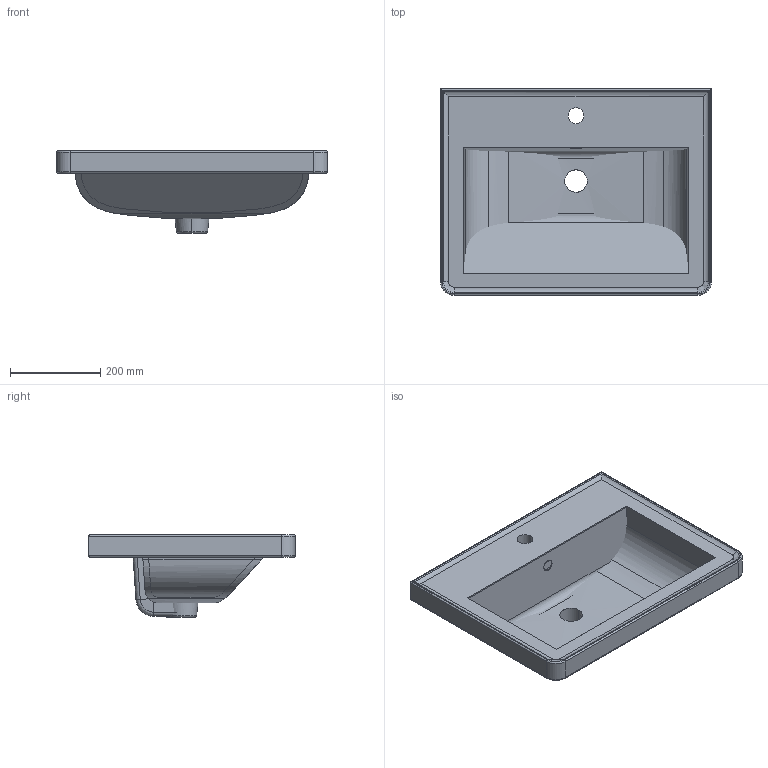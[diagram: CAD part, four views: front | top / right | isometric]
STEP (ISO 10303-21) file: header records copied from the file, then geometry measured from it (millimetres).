
FILE_DESCRIPTION(('FreeCAD Model'),'2;1');
FILE_NAME('Open CASCADE Shape Model','2024-11-19T16:03:48',('Author'),( ''),'Open CASCADE STEP processor 7.6','FreeCAD','Unknown');
FILE_SCHEMA(('AUTOMOTIVE_DESIGN { 1 0 10303 214 1 1 1 1 }'));
Length unit declared in the file: millimetre
Products named in the file (3): TopLevelAssembly; Połączona geometria bryłowa; Połączona geometria bryłowa001
Assembly tree (2 placements, depth 2):
  TopLevelAssembly
    Połączona geometria bryłowa
    Połączona geometria bryłowa001
Bounding box: 601.84 x 458.92 x 183.07 mm (x, y, z)
Volume: 10481899.9 mm3; surface area: 1154548.2 mm2
Topology: 2 solids, 2 shells, 112 faces, 304 edges, 193 vertices
Faces by surface type: cylinder 55, plane 41, bspline 16
Entity records: 4004 total; most frequent: CARTESIAN_POINT 1148, ORIENTED_EDGE 608, DIRECTION 568, EDGE_CURVE 304, AXIS2_PLACEMENT_3D 205, VERTEX_POINT 193, LINE 158, VECTOR 158
